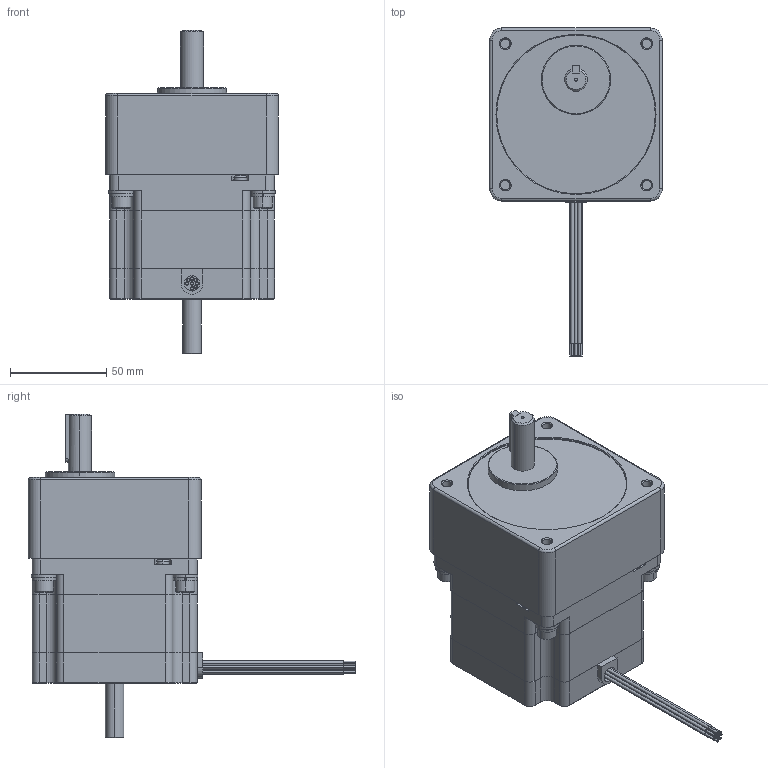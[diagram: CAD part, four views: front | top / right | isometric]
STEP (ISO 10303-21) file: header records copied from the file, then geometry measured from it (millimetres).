
FILE_DESCRIPTION (( 'STEP AP214' ), '1' );
FILE_NAME ('34YSG008D-LW8-R12.5.STEP', '2010-06-18T16:27:46', ( 'Tim Raines' ), ( 'Anaheim Automation' ), 'SwSTEP 2.0', 'SolidWorks 2010', '' );
FILE_SCHEMA (( 'AUTOMOTIVE_DESIGN' ));
Length unit declared in the file: millimetre
Products named in the file (6): Lock Washer Spring Regular_AI_Regular LW 0.25; 34YSG Motor_34YSG008D-LW8; Socket Head Cap Screw_AM_B18.3.1M - 6 x 1.0 x 20 Hex SHCS -- 20NHX; 34YSG008D-LW8-R12.5; 34SG Series_34SG1; Flat Washer Narrow_AM_B18.22M - Plain washer, 6 mm, narrow
Assembly tree (14 placements, depth 2):
  34YSG008D-LW8-R12.5
    34SG Series_34SG1
    Socket Head Cap Screw_AM_B18.3.1M - 6 x 1.0 x 20 Hex SHCS -- 20NHX  x4
    Flat Washer Narrow_AM_B18.22M - Plain washer, 6 mm, narrow  x4
    Lock Washer Spring Regular_AI_Regular LW 0.25  x4
    34YSG Motor_34YSG008D-LW8
Bounding box: 89.92 x 170.43 x 168.48 mm (x, y, z)
Volume: 769725.5 mm3; surface area: 85684.3 mm2
Topology: 14 solids, 14 shells, 587 faces, 1391 edges, 862 vertices
Faces by surface type: plane 272, cylinder 194, cone 101, torus 20
Entity records: 18905 total; most frequent: CARTESIAN_POINT 2631, DIRECTION 2475, ORIENTED_EDGE 2262, EDGE_CURVE 1131, AXIS2_PLACEMENT_3D 919, VERTEX_POINT 715, LINE 637, VECTOR 637
